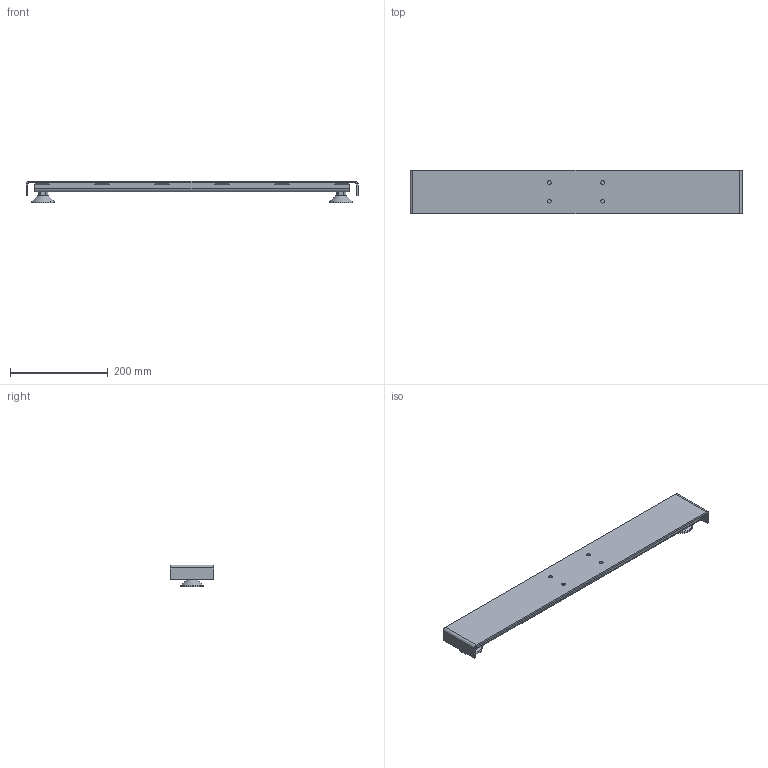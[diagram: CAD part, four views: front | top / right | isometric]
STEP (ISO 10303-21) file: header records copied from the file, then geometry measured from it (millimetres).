
FILE_DESCRIPTION(/* description */ ('Unknown'),/* implementation_level */ '2;1');
FILE_NAME(/* name */ '127.00545_04',/* time_stamp */ '2023-07-11T16:37:01+02:00',/* author */ ('Unknown'),/* organization */ ('Unknown'),/* preprocessor_version */ 'ST-DEVELOPER v18.104',/* originating_system */ 'Solid Edge',/* authorisation */ 'Unknown');
FILE_SCHEMA (('AUTOMOTIVE_DESIGN {1 0 10303 214 3 1 1}'));
Length unit declared in the file: millimetre
Products named in the file (5): 127.00545; 127.00548; 113.00006; 113.00006-ohne Mutter; Mutter M10
Assembly tree (5 placements, depth 3):
  127.00545
    127.00548
    113.00006  x2
      113.00006-ohne Mutter
      Mutter M10
Bounding box: 680 x 90 x 45 mm (x, y, z)
Volume: 556049.4 mm3; surface area: 274514.5 mm2
Topology: 5 solids, 5 shells, 161 faces, 386 edges, 251 vertices
Faces by surface type: plane 86, cylinder 39, cone 32, torus 4
Full cylindrical faces by diameter (mm): 7.5 x4, 8.376 x5, 9.5 x2, 10 x2, 14 x4, 15 x2, 19 x2, 25 x2, 29 x2, 35 x2, 39 x2, 47 x2
Entity records: 4247 total; most frequent: CARTESIAN_POINT 635, DIRECTION 552, ORIENTED_EDGE 516, EDGE_CURVE 258, AXIS2_PLACEMENT_3D 197, VERTEX_POINT 184, EDGE_LOOP 176, FACE_BOUND 176
